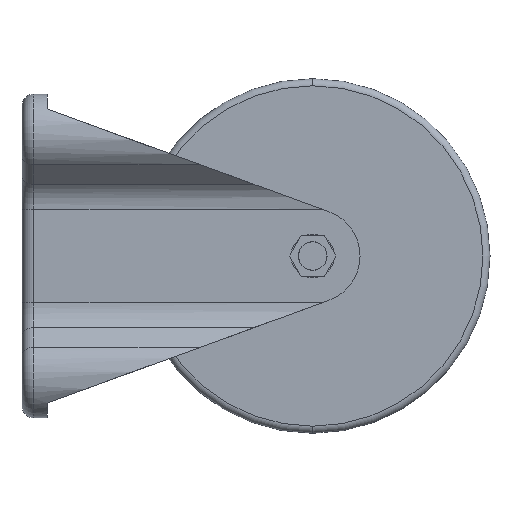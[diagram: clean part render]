
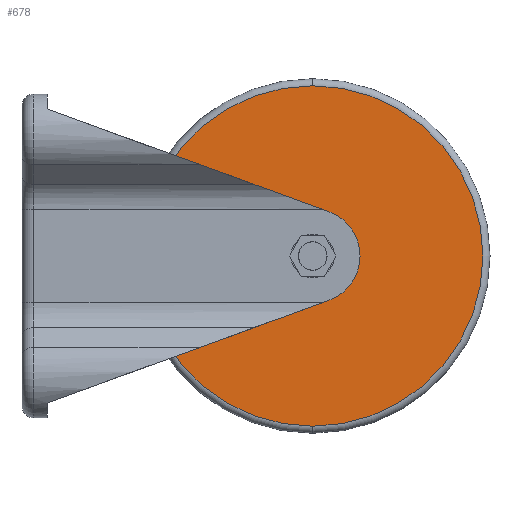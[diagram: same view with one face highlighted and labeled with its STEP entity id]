
A CAD part, left-side view. The second image highlights one B-rep face of the part: STEP entity #678.
In plain terms, the highlighted planar face has unit normal (-1, 0, 0).
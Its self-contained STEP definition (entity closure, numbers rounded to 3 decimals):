
#162 = FACE_BOUND ( 'NONE', #969, .T. ) ;
#169 = ORIENTED_EDGE ( 'NONE', *, *, #2562, .T. ) ;
#253 = EDGE_LOOP ( 'NONE', ( #434, #1160 ) ) ;
#360 = AXIS2_PLACEMENT_3D ( 'NONE', #2656, #544, #2632 ) ;
#434 = ORIENTED_EDGE ( 'NONE', *, *, #1471, .T. ) ;
#483 = CARTESIAN_POINT ( 'NONE',  ( -20., 0., 0. ) ) ;
#511 = AXIS2_PLACEMENT_3D ( 'NONE', #620, #3086, #2567 ) ;
#544 = DIRECTION ( 'NONE',  ( 1., 0., 0. ) ) ;
#584 = DIRECTION ( 'NONE',  ( 0., 0., -1. ) ) ;
#604 = AXIS2_PLACEMENT_3D ( 'NONE', #483, #795, #2921 ) ;
#620 = CARTESIAN_POINT ( 'NONE',  ( -20., 0., 0. ) ) ;
#678 = ADVANCED_FACE ( 'NONE', ( #162, #1733 ), #2813, .F. ) ;
#795 = DIRECTION ( 'NONE',  ( 1., 0., 0. ) ) ;
#870 = VERTEX_POINT ( 'NONE', #2551 ) ;
#969 = EDGE_LOOP ( 'NONE', ( #1330, #169 ) ) ;
#1098 = DIRECTION ( 'NONE',  ( 0., 0., -1. ) ) ;
#1109 = CARTESIAN_POINT ( 'NONE',  ( -20., 0., -72. ) ) ;
#1160 = ORIENTED_EDGE ( 'NONE', *, *, #3317, .T. ) ;
#1330 = ORIENTED_EDGE ( 'NONE', *, *, #1998, .T. ) ;
#1362 = DIRECTION ( 'NONE',  ( -1., 0., 0. ) ) ;
#1464 = CIRCLE ( 'NONE', #2870, 6.1 ) ;
#1471 = EDGE_CURVE ( 'NONE', #3272, #2190, #2747, .T. ) ;
#1733 = FACE_OUTER_BOUND ( 'NONE', #253, .T. ) ;
#1800 = AXIS2_PLACEMENT_3D ( 'NONE', #2173, #1362, #1098 ) ;
#1998 = EDGE_CURVE ( 'NONE', #2906, #870, #2408, .T. ) ;
#2086 = CIRCLE ( 'NONE', #1800, 72. ) ;
#2173 = CARTESIAN_POINT ( 'NONE',  ( -20., 0., 0. ) ) ;
#2190 = VERTEX_POINT ( 'NONE', #2703 ) ;
#2408 = CIRCLE ( 'NONE', #360, 6.1 ) ;
#2551 = CARTESIAN_POINT ( 'NONE',  ( -20., 0., 6.1 ) ) ;
#2562 = EDGE_CURVE ( 'NONE', #870, #2906, #1464, .T. ) ;
#2567 = DIRECTION ( 'NONE',  ( 0., 0., -1. ) ) ;
#2632 = DIRECTION ( 'NONE',  ( 0., 0., -1. ) ) ;
#2656 = CARTESIAN_POINT ( 'NONE',  ( -20., 0., 0. ) ) ;
#2703 = CARTESIAN_POINT ( 'NONE',  ( -20., 0., 72. ) ) ;
#2747 = CIRCLE ( 'NONE', #511, 72. ) ;
#2813 = PLANE ( 'NONE',  #604 ) ;
#2870 = AXIS2_PLACEMENT_3D ( 'NONE', #2966, #3240, #584 ) ;
#2906 = VERTEX_POINT ( 'NONE', #3238 ) ;
#2921 = DIRECTION ( 'NONE',  ( 0., 0., -1. ) ) ;
#2966 = CARTESIAN_POINT ( 'NONE',  ( -20., 0., 0. ) ) ;
#3086 = DIRECTION ( 'NONE',  ( -1., 0., 0. ) ) ;
#3238 = CARTESIAN_POINT ( 'NONE',  ( -20., 0., -6.1 ) ) ;
#3240 = DIRECTION ( 'NONE',  ( 1., 0., 0. ) ) ;
#3272 = VERTEX_POINT ( 'NONE', #1109 ) ;
#3317 = EDGE_CURVE ( 'NONE', #2190, #3272, #2086, .T. ) ;
